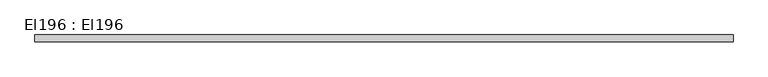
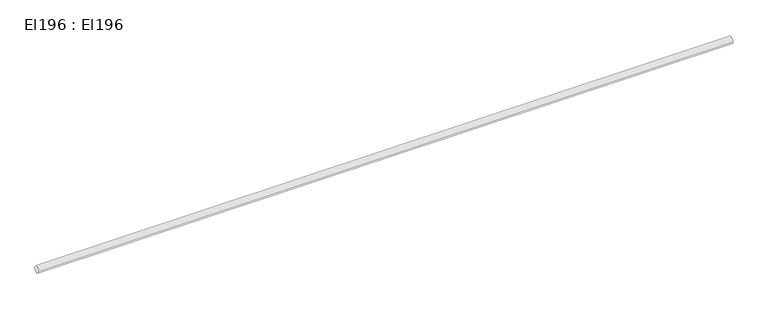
"""IFC4 building model written with IfcOpenShell, lengths in millimetres: cable carrier segment geometry, El196 : El196."""

import ifcopenshell
import ifcopenshell.guid

model = None  # the IFC model being written
_history = None  # IfcOwnerHistory: only IFC2X3 demands one
_inside = {}  # id of a spatial element -> (the spatial element, [elements in it])
_under = {}  # id of a project, library or spatial element -> (it, [spatial elements below it])
_declared = {}  # id of a project -> (the project, [libraries it declares])
_typed = {}  # id of a type object -> (the type object, [elements of that type])
_made_of = {}  # id of a material, layer set ... -> (it, [elements and type objects made of it])


def new_model(schema):
    """Start an empty IFC model of exactly this schema.

    Asked for "IFC4X3", IfcOpenShell would pick the latest addendum, in which some entities
    have other attributes; the version numbers below select the first issue.
    IFC2X3 requires an IfcOwnerHistory on every rooted entity: one is made here for all.
    """
    global model, _history
    if schema == "IFC4X3":
        model = ifcopenshell.file(schema_version=(4, 3, 0, 0))
    else:
        model = ifcopenshell.file(schema=schema)
    _inside.clear()
    _under.clear()
    _declared.clear()
    _typed.clear()
    _made_of.clear()
    _history = None
    if model.schema == "IFC2X3":
        org = make("IfcOrganization", Name="unknown")
        user = make(
            "IfcPersonAndOrganization",
            ThePerson=make("IfcPerson", FamilyName="unknown"),
            TheOrganization=org,
        )
        app = make(
            "IfcApplication",
            ApplicationDeveloper=org,
            Version="unknown",
            ApplicationFullName="unknown",
            ApplicationIdentifier="unknown",
        )
        _history = make(
            "IfcOwnerHistory",
            OwningUser=user,
            OwningApplication=app,
            ChangeAction="ADDED",
            CreationDate=0,
        )
    return model


def make(cls, **values):
    """One entity of the class cls with the attributes given. An attribute that is None is left unset."""
    return model.create_entity(
        cls, **{name: value for name, value in values.items() if value is not None}
    )


def rooted(cls, **values):
    """An entity with a GlobalId (a new one), such as an element, a storey or a relation."""
    return make(cls, GlobalId=ifcopenshell.guid.new(), OwnerHistory=_history, **values)


def si_unit(unit_type, name, prefix=None):
    """IfcSIUnit, for example si_unit("LENGTHUNIT", "METRE", prefix="MILLI")."""
    return make("IfcSIUnit", UnitType=unit_type, Prefix=prefix, Name=name)


def assignment(units):
    """IfcUnitAssignment: the units of a project."""
    return None if units is None else make("IfcUnitAssignment", Units=units)


def point(xyz):
    """IfcCartesianPoint."""
    return None if xyz is None else make("IfcCartesianPoint", Coordinates=xyz)


def direction(xyz):
    """IfcDirection."""
    return None if xyz is None else make("IfcDirection", DirectionRatios=xyz)


def frame(location, z_axis=None, x_axis=None):
    """IfcAxis2Placement3D, a coordinate frame: its origin and axes. An axis left out is left unset."""
    return make(
        "IfcAxis2Placement3D",
        Location=point(location),
        Axis=direction(z_axis),
        RefDirection=direction(x_axis),
    )


def frame_2d(location, x_axis=None):
    """IfcAxis2Placement2D, a coordinate frame in the plane: its origin and x axis."""
    return make(
        "IfcAxis2Placement2D", Location=point(location), RefDirection=direction(x_axis)
    )


def origin():
    """The frame at (0, 0, 0) with its axes left unset."""
    return frame((0.0, 0.0, 0.0))


def place(relative_to, where):
    """IfcLocalPlacement: puts the frame where relative to a parent placement (None: the world)."""
    return make(
        "IfcLocalPlacement", PlacementRelTo=relative_to, RelativePlacement=where
    )


def context(
    kind, dimensions, precision=None, world=None, true_north=None, identifier=None
):
    """IfcGeometricRepresentationContext, for example the 3D "Model" context."""
    return make(
        "IfcGeometricRepresentationContext",
        ContextIdentifier=identifier,
        ContextType=kind,
        CoordinateSpaceDimension=dimensions,
        Precision=precision,
        WorldCoordinateSystem=world,
        TrueNorth=true_north,
    )


def project(units=None, contexts=None):
    """IfcProject with its units and contexts."""
    return rooted(
        "IfcProject",
        Name="project",
        RepresentationContexts=contexts,
        UnitsInContext=assignment(units),
    )


def spatial(cls, under=None, at=None, **own):
    """A site, building, storey or space (cls), placed at a placement, below another one or the project."""
    s = rooted(cls, ObjectPlacement=at, **own)
    if under is not None:
        _under.setdefault(under.id(), (under, []))[1].append(s)
    return s


def circle_curve(where, radius):
    """IfcCircle in the frame where."""
    return make("IfcCircle", Position=where, Radius=radius)


def trimmed(basis, trim1, trim2, sense, master):
    """IfcTrimmedCurve: the piece of a basis curve between two trims."""
    return make(
        "IfcTrimmedCurve",
        BasisCurve=basis,
        Trim1=trim1,
        Trim2=trim2,
        SenseAgreement=sense,
        MasterRepresentation=master,
    )


def segment(curve, same_sense, transition):
    """IfcCompositeCurveSegment."""
    return make(
        "IfcCompositeCurveSegment",
        Transition=transition,
        SameSense=same_sense,
        ParentCurve=curve,
    )


def composite_curve(segments, self_intersect=None):
    """IfcCompositeCurve: segments joined end to end."""
    return make("IfcCompositeCurve", Segments=segments, SelfIntersect=self_intersect)


def outline(outer, holes=None, kind="AREA"):
    """IfcArbitraryClosedProfileDef: a profile drawn as a closed curve; with holes, ...WithVoids."""
    if holes is None:
        return make("IfcArbitraryClosedProfileDef", ProfileType=kind, OuterCurve=outer)
    return make(
        "IfcArbitraryProfileDefWithVoids",
        ProfileType=kind,
        OuterCurve=outer,
        InnerCurves=holes,
    )


def extrude(swept, where, along, depth):
    """IfcExtrudedAreaSolid: the profile swept, set in the frame where, extruded along a direction by depth."""
    return make(
        "IfcExtrudedAreaSolid",
        SweptArea=swept,
        Position=where,
        ExtrudedDirection=direction(along),
        Depth=depth,
    )


def shape(context_of_items, identifier, shape_type, items):
    """IfcShapeRepresentation: the items that make up one representation, for example the "Body"."""
    return make(
        "IfcShapeRepresentation",
        ContextOfItems=context_of_items,
        RepresentationIdentifier=identifier,
        RepresentationType=shape_type,
        Items=items,
    )


def source(mapping_origin, context_of_items, identifier, shape_type, items):
    """IfcRepresentationMap: a shape defined once, which mapped items show again and again."""
    return make(
        "IfcRepresentationMap",
        MappingOrigin=mapping_origin,
        MappedRepresentation=shape(context_of_items, identifier, shape_type, items),
    )


def transform(
    local_origin,
    x_axis=None,
    y_axis=None,
    z_axis=None,
    scale=None,
    scale2=None,
    scale3=None,
    uniform=True,
):
    """IfcCartesianTransformationOperator3D, or its non-uniform kind. x_axis, y_axis, z_axis: its Axis1, 2, 3."""
    if uniform:
        return make(
            "IfcCartesianTransformationOperator3D",
            Axis1=direction(x_axis),
            Axis2=direction(y_axis),
            LocalOrigin=point(local_origin),
            Scale=scale,
            Axis3=direction(z_axis),
        )
    return make(
        "IfcCartesianTransformationOperator3DnonUniform",
        Axis1=direction(x_axis),
        Axis2=direction(y_axis),
        LocalOrigin=point(local_origin),
        Scale=scale,
        Axis3=direction(z_axis),
        Scale2=scale2,
        Scale3=scale3,
    )


def mapped(mapping_source, mapping_target):
    """IfcMappedItem: shows the shape of a source again, moved by a transform."""
    return make(
        "IfcMappedItem", MappingSource=mapping_source, MappingTarget=mapping_target
    )


def made_of(thing, what):
    """Note that an element or type object is made of a material, layer set ...; save() writes the relation."""
    if what is not None:
        _made_of.setdefault(what.id(), (what, []))[1].append(thing)
    return thing


def element(
    cls,
    number,
    at=None,
    inside=None,
    cuts=None,
    type_object=None,
    material=None,
    context=None,
    identifier="Body",
    shape_type=None,
    held_by="IfcProductDefinitionShape",
    body=None,
    shapes=None,
    **own,
):
    """One element of the class cls, such as IfcWall. Its Tag is "e" and its number.

    at: its placement. inside: the storey or other place that contains it. cuts: it is an
    opening in that element (IfcRelVoidsElement). A single representation is given by context,
    identifier, shape_type and body (its items); several are given by shapes. held_by: the class
    of the entity that holds the representations. save() writes the other relations.
    """
    e = rooted(cls, Tag="e%d" % number, ObjectPlacement=at, **own)
    if body is not None:
        shapes = [shape(context, identifier, shape_type, body)]
    if shapes is not None:
        e.Representation = make(held_by, Representations=shapes)
    if inside is not None:
        _inside.setdefault(inside.id(), (inside, []))[1].append(e)
    if cuts is not None:
        rooted(
            "IfcRelVoidsElement", RelatingBuildingElement=cuts, RelatedOpeningElement=e
        )
    if type_object is not None:
        _typed.setdefault(type_object.id(), (type_object, []))[1].append(e)
    return made_of(e, material)


def aggregate(whole, parts):
    """IfcRelAggregates: a whole, such as a stair, and the parts it consists of."""
    return rooted("IfcRelAggregates", RelatingObject=whole, RelatedObjects=parts)


def save(model, path):
    """Write the relations noted so far, then the file.

    IfcRelAggregates (storeys below a building ...), IfcRelContainedInSpatialStructure (elements
    in a storey), IfcRelDefinesByType, IfcRelAssociatesMaterial and IfcRelDeclares: one each for
    every whole, place, type object, material and project.
    """
    for whole, parts in _under.values():
        aggregate(whole, parts)
    for where, things in _inside.values():
        rooted(
            "IfcRelContainedInSpatialStructure",
            RelatedElements=things,
            RelatingStructure=where,
        )
    for kind, things in _typed.values():
        rooted("IfcRelDefinesByType", RelatedObjects=things, RelatingType=kind)
    for what, things in _made_of.values():
        rooted("IfcRelAssociatesMaterial", RelatedObjects=things, RelatingMaterial=what)
    for by, libraries in _declared.values():
        rooted("IfcRelDeclares", RelatingContext=by, RelatedDefinitions=libraries)
    model.write(path)


def el196_el196_86cabbf7(model_context):
    return source(origin(), model_context, "Body", "SweptSolid", [
        extrude(outline(composite_curve([segment(trimmed(circle_curve(frame_2d((32159.6, 2950.0)), 9.5), [point((32150.1, 2950.0))], [point((32169.1, 2950.0))], False, "CARTESIAN"), True, "CONTINUOUS"), segment(trimmed(circle_curve(frame_2d((32159.6, 2950.0)), 9.5), [point((32169.1, 2950.0))], [point((32150.1, 2950.0))], False, "CARTESIAN"), True, "CONTINUOUS")], self_intersect=False)), frame((11681.1, 0.0, 0.0), z_axis=(1.0, 0.0, 0.0), x_axis=(0.0, 1.0, 0.0)), (0.0, 0.0, 1.0), 1900.0),
    ])


if __name__ == "__main__":
    model = new_model("IFC4")
    model_context = context("Model", 3, world=origin())
    ifc_project = project(units=[si_unit("LENGTHUNIT", "METRE", prefix="MILLI")], contexts=[model_context])
    site = spatial("IfcSite", under=ifc_project)
    building = spatial("IfcBuilding", under=site)
    placement = place(None, origin())
    el196_el196_shape = el196_el196_86cabbf7(model_context)
    element("IfcCableCarrierSegment", 1, ObjectType="El196 : El196", at=placement, inside=building, context=model_context, shape_type="MappedRepresentation", body=[
        mapped(el196_el196_shape, transform((0.0, 0.0, 0.0), x_axis=(1.0, 0.0, 0.0), y_axis=(0.0, 1.0, 0.0), z_axis=(0.0, 0.0, 1.0))),
    ])
    save(model, "model.ifc")
